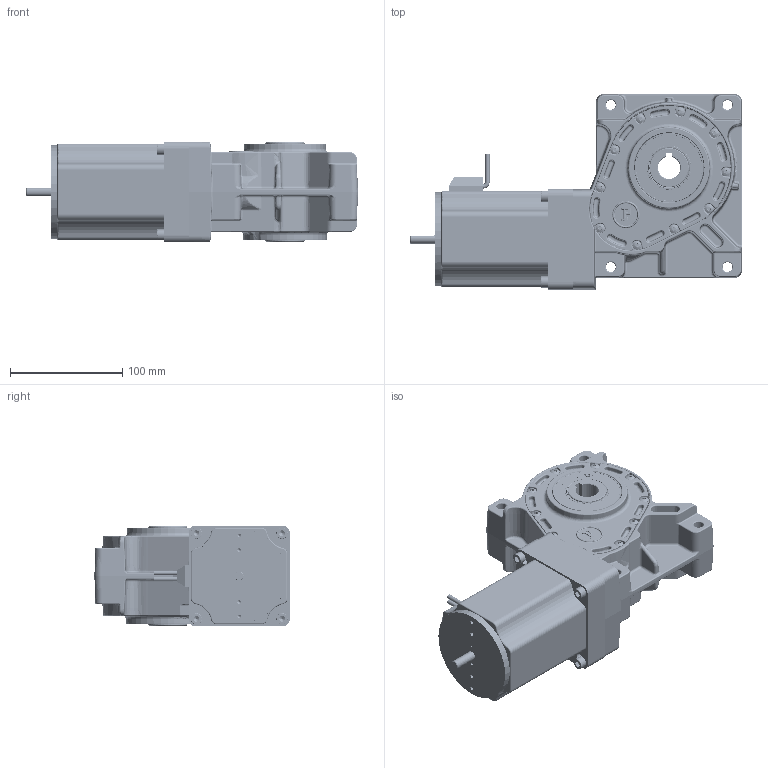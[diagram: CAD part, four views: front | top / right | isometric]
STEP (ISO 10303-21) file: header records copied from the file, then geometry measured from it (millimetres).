
FILE_DESCRIPTION (( 'STEP AP214' ), '1' );
FILE_NAME ('PBL86-55-GB65.STEP', '2024-09-16T11:09:02', ( '' ), ( '' ), 'SwSTEP 2.0', 'SolidWorks 2023', '' );
FILE_SCHEMA (( 'AUTOMOTIVE_DESIGN' ));
Length unit declared in the file: millimetre
Products named in the file (1): PBL86-55-GB65
Bounding box: 295.95 x 174.1 x 90 mm (x, y, z)
Surface area: 378378.5 mm2 (no closed solid volume)
Topology: 0 solids, 66 shells, 4836 faces, 11890 edges, 7133 vertices
Faces by surface type: bspline 1197, cylinder 1162, plane 1056, torus 700, cone 565, sphere 156
Entity records: 252538 total; most frequent: CARTESIAN_POINT 93495, ORIENTED_EDGE 23202, DIRECTION 20762, EDGE_CURVE 11601, AXIS2_PLACEMENT_3D 8501, VERTEX_POINT 7113, EDGE_LOOP 5144, UNCERTAINTY_MEASURE_WITH_UNIT 4875
